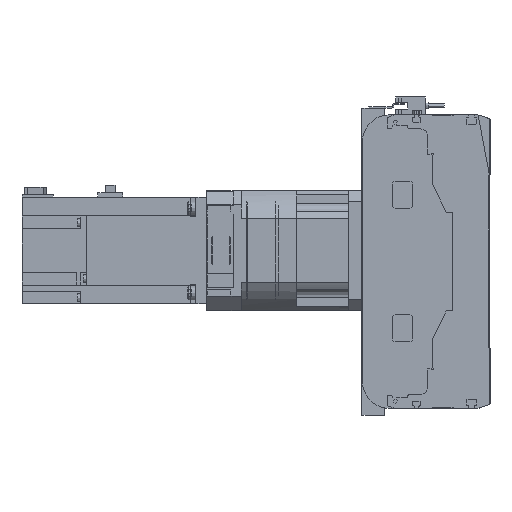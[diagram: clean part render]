
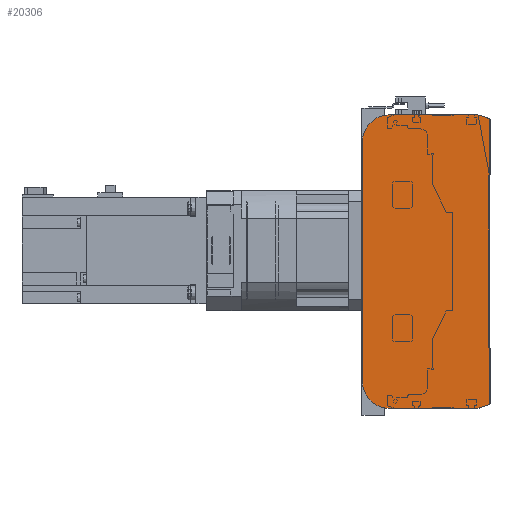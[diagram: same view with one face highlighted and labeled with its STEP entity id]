
A CAD part, left-side view. The second image highlights one B-rep face of the part: STEP entity #20306.
In plain terms, the highlighted planar face has unit normal (-1, 0, 0).
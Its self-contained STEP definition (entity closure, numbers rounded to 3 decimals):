
#1172=CIRCLE('',#22110,20.);
#1173=CIRCLE('',#22113,20.);
#4946=ORIENTED_EDGE('',*,*,#8776,.F.);
#4947=ORIENTED_EDGE('',*,*,#8818,.F.);
#4948=ORIENTED_EDGE('',*,*,#8816,.F.);
#4949=ORIENTED_EDGE('',*,*,#8814,.F.);
#4950=ORIENTED_EDGE('',*,*,#8803,.F.);
#4951=ORIENTED_EDGE('',*,*,#8794,.F.);
#4952=ORIENTED_EDGE('',*,*,#8790,.F.);
#4953=ORIENTED_EDGE('',*,*,#8787,.F.);
#8776=EDGE_CURVE('',#11035,#11036,#12859,.T.);
#8787=EDGE_CURVE('',#11036,#11043,#12870,.T.);
#8790=EDGE_CURVE('',#11043,#11045,#12873,.T.);
#8794=EDGE_CURVE('',#11045,#11046,#12877,.T.);
#8803=EDGE_CURVE('',#11046,#11052,#12886,.T.);
#8814=EDGE_CURVE('',#11052,#11059,#1172,.T.);
#8816=EDGE_CURVE('',#11059,#11060,#12898,.T.);
#8818=EDGE_CURVE('',#11060,#11035,#1173,.T.);
#11035=VERTEX_POINT('',#33772);
#11036=VERTEX_POINT('',#33774);
#11043=VERTEX_POINT('',#33793);
#11045=VERTEX_POINT('',#33799);
#11046=VERTEX_POINT('',#33805);
#11052=VERTEX_POINT('',#33821);
#11059=VERTEX_POINT('',#33840);
#11060=VERTEX_POINT('',#33844);
#12859=LINE('',#33773,#14462);
#12870=LINE('',#33792,#14473);
#12873=LINE('',#33798,#14476);
#12877=LINE('',#33804,#14480);
#12886=LINE('',#33820,#14489);
#12898=LINE('',#33843,#14501);
#14462=VECTOR('',#26705,1000.);
#14473=VECTOR('',#26718,1000.);
#14476=VECTOR('',#26723,1000.);
#14480=VECTOR('',#26729,1000.);
#14489=VECTOR('',#26740,1000.);
#14501=VECTOR('',#26758,1000.);
#15886=EDGE_LOOP('',(#4946,#4947,#4948,#4949,#4950,#4951,#4952,#4953));
#17906=FACE_BOUND('',#15886,.T.);
#19365=PLANE('',#22114);
#20306=ADVANCED_FACE('',(#17906),#19365,.F.);
#22110=AXIS2_PLACEMENT_3D('',#33839,#26753,#26754);
#22113=AXIS2_PLACEMENT_3D('',#33847,#26762,#26763);
#22114=AXIS2_PLACEMENT_3D('',#33848,#26764,#26765);
#26705=DIRECTION('',(0.,-1.,0.));
#26718=DIRECTION('',(0.,-0.945,-0.328));
#26723=DIRECTION('',(0.,0.,-1.));
#26729=DIRECTION('',(0.,0.945,-0.328));
#26740=DIRECTION('',(0.,1.,0.));
#26753=DIRECTION('',(1.,0.,0.));
#26754=DIRECTION('',(0.,0.,-1.));
#26758=DIRECTION('',(0.,0.,1.));
#26762=DIRECTION('',(1.,0.,0.));
#26763=DIRECTION('',(0.,0.,-1.));
#26764=DIRECTION('',(1.,0.,0.));
#26765=DIRECTION('',(0.,0.,-1.));
#33772=CARTESIAN_POINT('',(0.,75.5,110.));
#33773=CARTESIAN_POINT('',(0.,75.5,110.));
#33774=CARTESIAN_POINT('',(0.,9.,110.));
#33792=CARTESIAN_POINT('',(0.,9.,110.));
#33793=CARTESIAN_POINT('',(0.,0.5,107.05));
#33798=CARTESIAN_POINT('',(0.,0.5,107.05));
#33799=CARTESIAN_POINT('',(0.,0.5,-107.05));
#33804=CARTESIAN_POINT('',(0.,0.5,-107.05));
#33805=CARTESIAN_POINT('',(0.,9.,-110.));
#33820=CARTESIAN_POINT('',(0.,9.,-110.));
#33821=CARTESIAN_POINT('',(0.,75.5,-110.));
#33839=CARTESIAN_POINT('',(0.,75.5,-90.));
#33840=CARTESIAN_POINT('',(0.,95.5,-90.));
#33843=CARTESIAN_POINT('',(0.,95.5,-90.));
#33844=CARTESIAN_POINT('',(0.,95.5,90.));
#33847=CARTESIAN_POINT('',(0.,75.5,90.));
#33848=CARTESIAN_POINT('',(0.,75.5,-90.));
